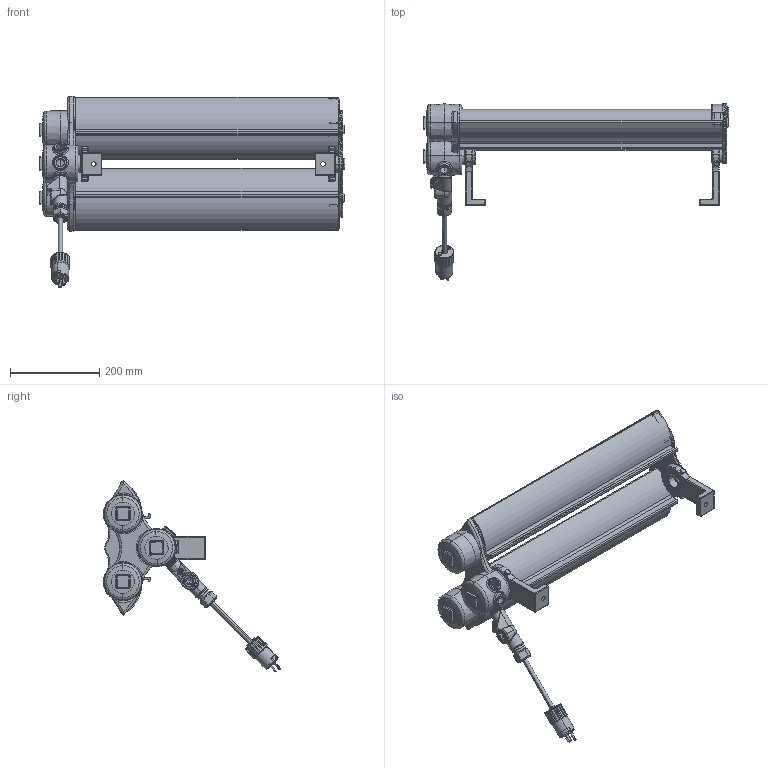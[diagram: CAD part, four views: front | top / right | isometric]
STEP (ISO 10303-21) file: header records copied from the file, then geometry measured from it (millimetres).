
FILE_DESCRIPTION (( 'STEP AP203' ), '1' );
FILE_NAME ('EPL-24-2L-UVC-SFC.STEP', '2025-10-10T14:29:42', ( '' ), ( '' ), 'SwSTEP 2.0', 'SolidWorks 2020', '' );
FILE_SCHEMA (( 'CONFIG_CONTROL_DESIGN' ));
Length unit declared in the file: inch
Products named in the file (12): EPP-15A Part; .4 diameter SOOW Cord; EPL-24-2L-SFC_LED; EPL-24-2L-SFC; EPL-24-2L-UVC-SFC; 10 .75 green; 0.75in Plug - Square Drive_1162T48; EYS; 0.25in Plug - Square Drive_1162T45; EYS - .5 ends .75 side .25 angle; 3-4 Nipple_44665K191; EPP-15A Assembly
Assembly tree (11 placements, depth 3):
  EPL-24-2L-UVC-SFC
    EPL-24-2L-SFC_LED
      EPL-24-2L-SFC
    EYS
      EYS - .5 ends .75 side .25 angle
      0.75in Plug - Square Drive_1162T48
      0.25in Plug - Square Drive_1162T45
    3-4 Nipple_44665K191
    10 .75 green
    .4 diameter SOOW Cord
    EPP-15A Assembly
      EPP-15A Part
Bounding box: 683.46 x 396.21 x 427.92 mm (x, y, z)
Volume: 184465.4 mm3; surface area: 1023195.5 mm2
Topology: 7 solids, 28 shells, 1142 faces, 2745 edges, 1641 vertices
Faces by surface type: cone 315, plane 308, cylinder 291, torus 161, bspline 39, sphere 28
Entity records: 61964 total; most frequent: CARTESIAN_POINT 34771, DIRECTION 5563, ORIENTED_EDGE 5328, EDGE_CURVE 2713, AXIS2_PLACEMENT_3D 2267, VERTEX_POINT 1637, EDGE_LOOP 1198, CIRCLE 1146
